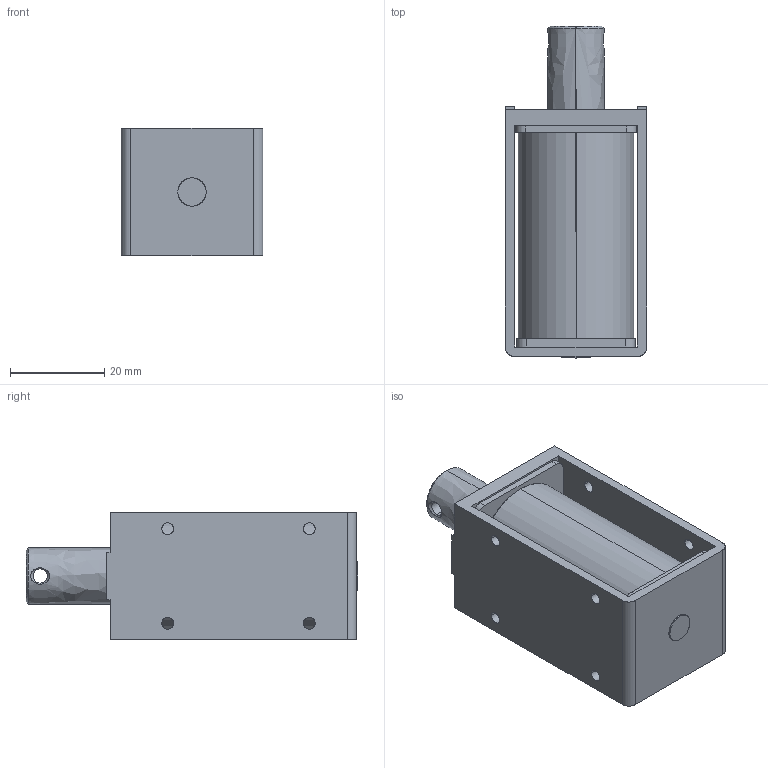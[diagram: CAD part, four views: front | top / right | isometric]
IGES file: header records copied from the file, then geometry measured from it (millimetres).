
Start section: SolidWorks IGES file using analytic representation for surfaces
Global section: file name: L:\カタログ\web用3Dデータ\CA1253\3D_CA1253\w_ca1253.IGS; native system: SolidWorks 2014; preprocessor: SolidWorks 2014; author: jiba; date: 140714.114715; units: millimetre
Bounding box: 30 x 70.3 x 27 mm (x, y, z)
Surface area: 21705.9 mm2 (no closed solid volume)
Topology: 0 solids, 0 shells, 84 faces, 1642 edges, 1642 vertices
Faces by surface type: revolution 49, bspline 35
